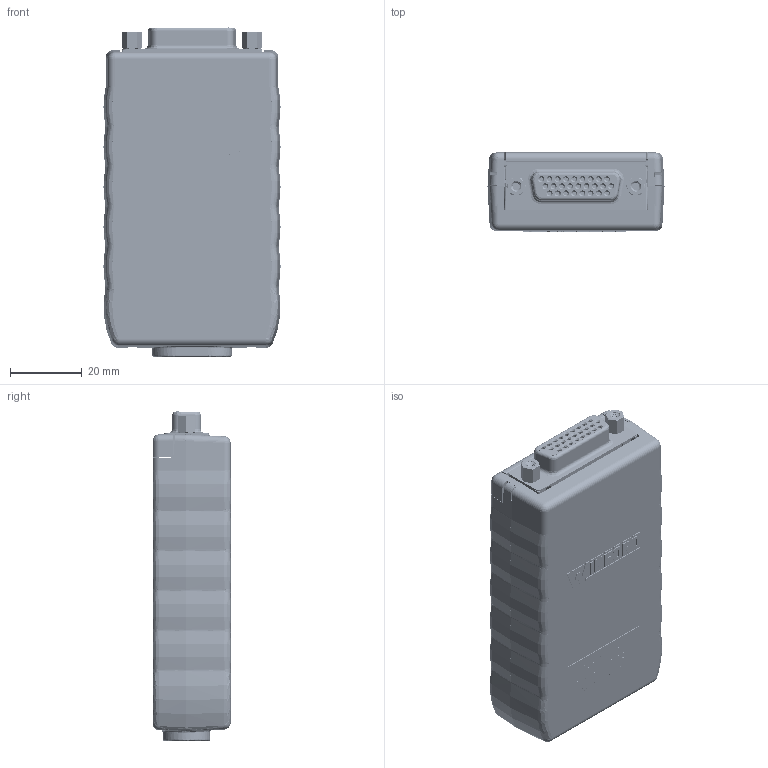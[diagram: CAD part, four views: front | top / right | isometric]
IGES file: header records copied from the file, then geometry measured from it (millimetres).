
Start section: SolidWorks IGES file using analytic representation for surfaces
Global section: file name: D:\Documents\Winford Engineering Jobs\ECB15B1 Enclosure\brkegd26hdf-r_rev_a.igs; native system: SolidWorks 2017; preprocessor: SolidWorks 2017; author: mudhf; date: 220410.174945; units: inch
Bounding box: 49.35 x 22 x 91.8 mm (x, y, z)
Surface area: 51037.1 mm2 (no closed solid volume)
Topology: 0 solids, 0 shells, 14615 faces, 123038 edges, 123020 vertices
Faces by surface type: bspline 9934, revolution 4681
